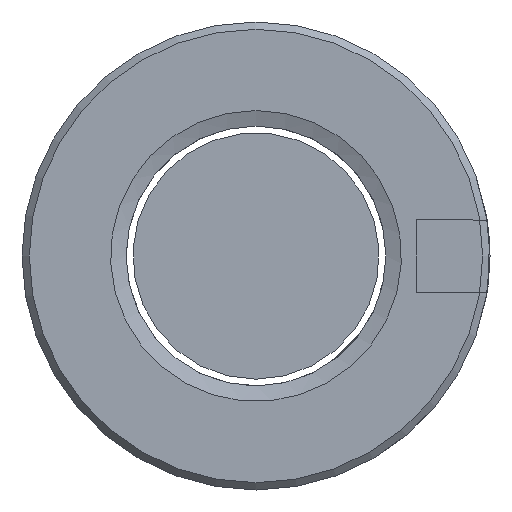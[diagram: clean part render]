
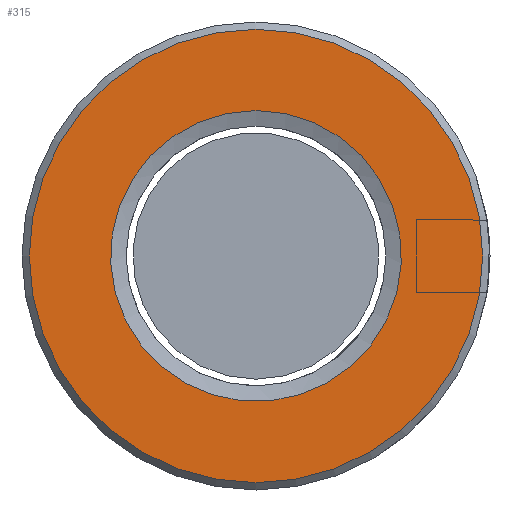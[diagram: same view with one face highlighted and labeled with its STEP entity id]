
A CAD part, left-side view. The second image highlights one B-rep face of the part: STEP entity #315.
In plain terms, the highlighted planar face has unit normal (-1, 0, 0) as drawn and (0, 0, 1) by its records, which use the part's own axes.
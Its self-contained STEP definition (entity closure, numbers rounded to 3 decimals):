
#89=ORIENTED_EDGE('',*,*,#151,.T.);
#90=ORIENTED_EDGE('',*,*,#152,.F.);
#151=EDGE_CURVE('',#182,#182,#203,.T.);
#152=EDGE_CURVE('',#183,#183,#204,.T.);
#182=VERTEX_POINT('',#589);
#183=VERTEX_POINT('',#591);
#203=CIRCLE('',#377,5.905);
#204=CIRCLE('',#378,9.203);
#227=EDGE_LOOP('',(#89));
#228=EDGE_LOOP('',(#90));
#270=FACE_BOUND('',#227,.T.);
#271=FACE_BOUND('',#228,.T.);
#302=PLANE('',#376);
#315=ADVANCED_FACE('',(#270,#271),#302,.T.);
#376=AXIS2_PLACEMENT_3D('',#587,#446,#447);
#377=AXIS2_PLACEMENT_3D('',#588,#448,#449);
#378=AXIS2_PLACEMENT_3D('',#590,#450,#451);
#446=DIRECTION('',(0.,0.,1.));
#447=DIRECTION('',(1.,0.,0.));
#448=DIRECTION('',(0.,0.,-1.));
#449=DIRECTION('',(-1.,0.,0.));
#450=DIRECTION('',(0.,0.,-1.));
#451=DIRECTION('',(-1.,0.,0.));
#587=CARTESIAN_POINT('',(0.,9.203,14.5));
#588=CARTESIAN_POINT('',(0.,0.,14.5));
#589=CARTESIAN_POINT('',(-5.905,0.,14.5));
#590=CARTESIAN_POINT('',(0.,0.,14.5));
#591=CARTESIAN_POINT('',(-9.203,0.,14.5));
